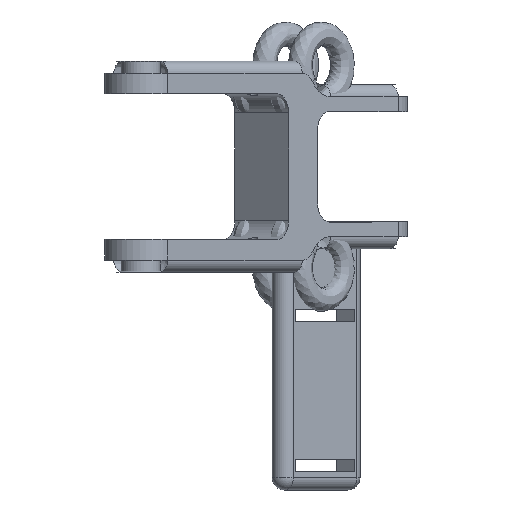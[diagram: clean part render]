
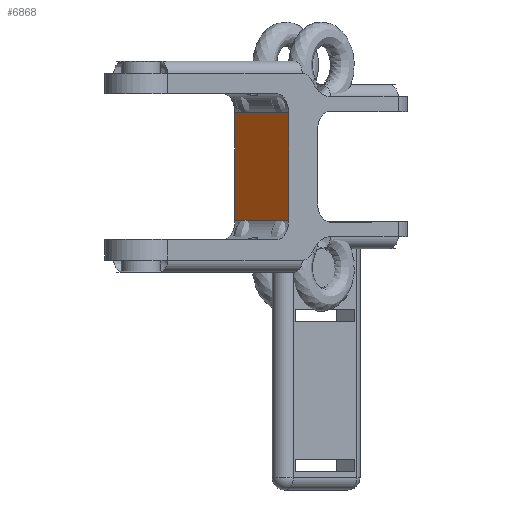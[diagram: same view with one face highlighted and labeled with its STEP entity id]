
A CAD part, front view. The second image highlights one B-rep face of the part: STEP entity #6868.
In plain terms, the highlighted planar face has unit normal (-0.669, -0.744, 0).
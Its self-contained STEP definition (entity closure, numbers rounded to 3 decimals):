
#1341 = PLANE('',#1342);
#1342 = AXIS2_PLACEMENT_3D('',#1343,#1344,#1345);
#1343 = CARTESIAN_POINT('',(55.37,99.909,
    0.));
#1344 = DIRECTION('',(-0.744,0.669,0.)
  );
#1345 = DIRECTION('',(-0.669,-0.744,0.
    ));
#4183 = PLANE('',#4184);
#4184 = AXIS2_PLACEMENT_3D('',#4185,#4186,#4187);
#4185 = CARTESIAN_POINT('',(46.446,107.932,
    0.));
#4186 = DIRECTION('',(0.744,-0.669,0.
    ));
#4187 = DIRECTION('',(0.669,0.744,0.)
  );
#4552 = CYLINDRICAL_SURFACE('',#4553,3.2);
#4553 = AXIS2_PLACEMENT_3D('',#4554,#4555,#4556);
#4554 = CARTESIAN_POINT('',(26.155,85.361,-8.55));
#4555 = DIRECTION('',(-0.744,0.669,0.)
  );
#4556 = DIRECTION('',(-0.669,-0.744,0.
    ));
#4810 = CYLINDRICAL_SURFACE('',#4811,3.2);
#4811 = AXIS2_PLACEMENT_3D('',#4812,#4813,#4814);
#4812 = CARTESIAN_POINT('',(26.155,85.361,-26.45));
#4813 = DIRECTION('',(-0.744,0.669,0.)
  );
#4814 = DIRECTION('',(-0.669,-0.744,0.
    ));
#5454 = VERTEX_POINT('',#5455);
#5455 = CARTESIAN_POINT('',(37.219,79.719,-8.55));
#5477 = EDGE_CURVE('',#5478,#5454,#5480,.T.);
#5478 = VERTEX_POINT('',#5479);
#5479 = CARTESIAN_POINT('',(37.219,79.719,-26.45));
#5480 = SURFACE_CURVE('',#5481,(#5485,#5492),.PCURVE_S1.);
#5481 = LINE('',#5482,#5483);
#5482 = CARTESIAN_POINT('',(37.219,79.719,-5.45));
#5483 = VECTOR('',#5484,1.);
#5484 = DIRECTION('',(0.,0.,1.));
#5485 = PCURVE('',#1341,#5486);
#5486 = DEFINITIONAL_REPRESENTATION('',(#5487),#5491);
#5487 = LINE('',#5488,#5489);
#5488 = CARTESIAN_POINT('',(27.15,-5.45));
#5489 = VECTOR('',#5490,1.);
#5490 = DIRECTION('',(0.,1.));
#5491 = ( GEOMETRIC_REPRESENTATION_CONTEXT(2) 
PARAMETRIC_REPRESENTATION_CONTEXT() REPRESENTATION_CONTEXT('2D SPACE',''
  ) );
#5492 = PCURVE('',#5493,#5498);
#5493 = PLANE('',#5494);
#5494 = AXIS2_PLACEMENT_3D('',#5495,#5496,#5497);
#5495 = CARTESIAN_POINT('',(28.295,87.741,-5.45));
#5496 = DIRECTION('',(0.669,0.744,0.)
  );
#5497 = DIRECTION('',(-0.744,0.669,0.)
  );
#5498 = DEFINITIONAL_REPRESENTATION('',(#5499),#5503);
#5499 = LINE('',#5500,#5501);
#5500 = CARTESIAN_POINT('',(-12.,0.));
#5501 = VECTOR('',#5502,1.);
#5502 = DIRECTION('',(0.,1.));
#5503 = ( GEOMETRIC_REPRESENTATION_CONTEXT(2) 
PARAMETRIC_REPRESENTATION_CONTEXT() REPRESENTATION_CONTEXT('2D SPACE',''
  ) );
#6817 = EDGE_CURVE('',#5454,#6818,#6820,.T.);
#6818 = VERTEX_POINT('',#6819);
#6819 = CARTESIAN_POINT('',(28.295,87.741,-8.55));
#6820 = SURFACE_CURVE('',#6821,(#6825,#6832),.PCURVE_S1.);
#6821 = LINE('',#6822,#6823);
#6822 = CARTESIAN_POINT('',(28.295,87.741,-8.55));
#6823 = VECTOR('',#6824,1.);
#6824 = DIRECTION('',(-0.744,0.669,0.)
  );
#6825 = PCURVE('',#4552,#6826);
#6826 = DEFINITIONAL_REPRESENTATION('',(#6827),#6831);
#6827 = LINE('',#6828,#6829);
#6828 = CARTESIAN_POINT('',(3.142,0.));
#6829 = VECTOR('',#6830,1.);
#6830 = DIRECTION('',(0.,1.));
#6831 = ( GEOMETRIC_REPRESENTATION_CONTEXT(2) 
PARAMETRIC_REPRESENTATION_CONTEXT() REPRESENTATION_CONTEXT('2D SPACE',''
  ) );
#6832 = PCURVE('',#5493,#6833);
#6833 = DEFINITIONAL_REPRESENTATION('',(#6834),#6838);
#6834 = LINE('',#6835,#6836);
#6835 = CARTESIAN_POINT('',(0.,-3.1));
#6836 = VECTOR('',#6837,1.);
#6837 = DIRECTION('',(1.,0.));
#6838 = ( GEOMETRIC_REPRESENTATION_CONTEXT(2) 
PARAMETRIC_REPRESENTATION_CONTEXT() REPRESENTATION_CONTEXT('2D SPACE',''
  ) );
#6868 = ADVANCED_FACE('',(#6869),#5493,.F.);
#6869 = FACE_BOUND('',#6870,.T.);
#6870 = EDGE_LOOP('',(#6871,#6872,#6895,#6916));
#6871 = ORIENTED_EDGE('',*,*,#6817,.T.);
#6872 = ORIENTED_EDGE('',*,*,#6873,.F.);
#6873 = EDGE_CURVE('',#6874,#6818,#6876,.T.);
#6874 = VERTEX_POINT('',#6875);
#6875 = CARTESIAN_POINT('',(28.295,87.741,-26.45));
#6876 = SURFACE_CURVE('',#6877,(#6881,#6888),.PCURVE_S1.);
#6877 = LINE('',#6878,#6879);
#6878 = CARTESIAN_POINT('',(28.295,87.741,0.));
#6879 = VECTOR('',#6880,1.);
#6880 = DIRECTION('',(0.,0.,1.));
#6881 = PCURVE('',#5493,#6882);
#6882 = DEFINITIONAL_REPRESENTATION('',(#6883),#6887);
#6883 = LINE('',#6884,#6885);
#6884 = CARTESIAN_POINT('',(0.,5.45));
#6885 = VECTOR('',#6886,1.);
#6886 = DIRECTION('',(0.,1.));
#6887 = ( GEOMETRIC_REPRESENTATION_CONTEXT(2) 
PARAMETRIC_REPRESENTATION_CONTEXT() REPRESENTATION_CONTEXT('2D SPACE',''
  ) );
#6888 = PCURVE('',#4183,#6889);
#6889 = DEFINITIONAL_REPRESENTATION('',(#6890),#6894);
#6890 = LINE('',#6891,#6892);
#6891 = CARTESIAN_POINT('',(-27.15,0.));
#6892 = VECTOR('',#6893,1.);
#6893 = DIRECTION('',(0.,1.));
#6894 = ( GEOMETRIC_REPRESENTATION_CONTEXT(2) 
PARAMETRIC_REPRESENTATION_CONTEXT() REPRESENTATION_CONTEXT('2D SPACE',''
  ) );
#6895 = ORIENTED_EDGE('',*,*,#6896,.F.);
#6896 = EDGE_CURVE('',#5478,#6874,#6897,.T.);
#6897 = SURFACE_CURVE('',#6898,(#6902,#6909),.PCURVE_S1.);
#6898 = LINE('',#6899,#6900);
#6899 = CARTESIAN_POINT('',(28.295,87.741,-26.45));
#6900 = VECTOR('',#6901,1.);
#6901 = DIRECTION('',(-0.744,0.669,0.)
  );
#6902 = PCURVE('',#5493,#6903);
#6903 = DEFINITIONAL_REPRESENTATION('',(#6904),#6908);
#6904 = LINE('',#6905,#6906);
#6905 = CARTESIAN_POINT('',(0.,-21.));
#6906 = VECTOR('',#6907,1.);
#6907 = DIRECTION('',(1.,0.));
#6908 = ( GEOMETRIC_REPRESENTATION_CONTEXT(2) 
PARAMETRIC_REPRESENTATION_CONTEXT() REPRESENTATION_CONTEXT('2D SPACE',''
  ) );
#6909 = PCURVE('',#4810,#6910);
#6910 = DEFINITIONAL_REPRESENTATION('',(#6911),#6915);
#6911 = LINE('',#6912,#6913);
#6912 = CARTESIAN_POINT('',(3.142,0.));
#6913 = VECTOR('',#6914,1.);
#6914 = DIRECTION('',(0.,1.));
#6915 = ( GEOMETRIC_REPRESENTATION_CONTEXT(2) 
PARAMETRIC_REPRESENTATION_CONTEXT() REPRESENTATION_CONTEXT('2D SPACE',''
  ) );
#6916 = ORIENTED_EDGE('',*,*,#5477,.T.);
